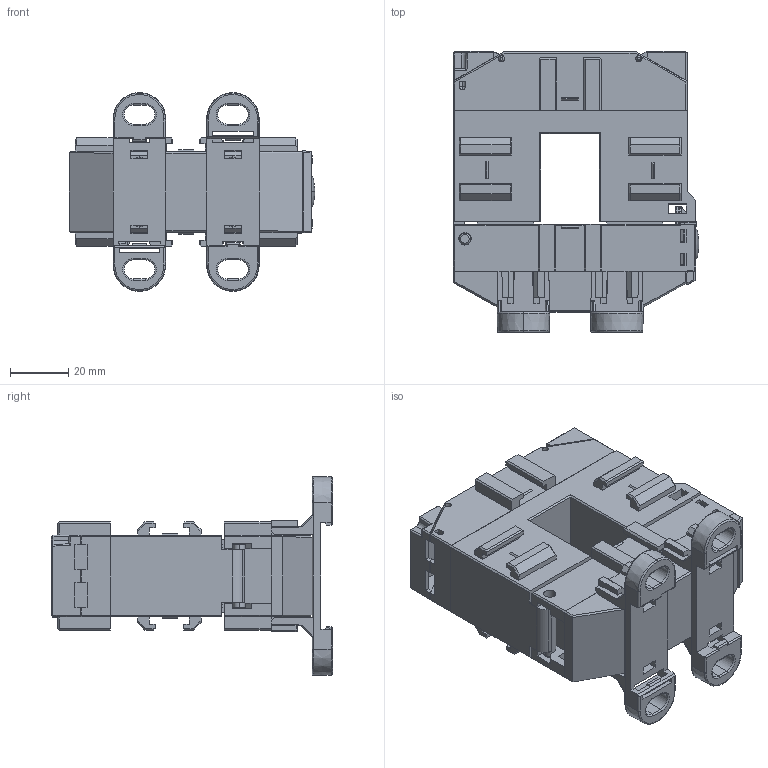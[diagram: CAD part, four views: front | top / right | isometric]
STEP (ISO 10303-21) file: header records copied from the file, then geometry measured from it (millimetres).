
FILE_DESCRIPTION (( 'STEP AP214' ), '1' );
FILE_NAME ('Push 32.STEP', '2023-03-29T15:52:38', ( '' ), ( '' ), 'SwSTEP 2.0', 'SolidWorks 2022', '' );
FILE_SCHEMA (( 'AUTOMOTIVE_DESIGN' ));
Length unit declared in the file: millimetre
Products named in the file (10): tapa cristal_versio_6.1_Predeterminado; Push 32; BOTON VERCION 7_Predeterminado; TAPA CUERPO LARGO2_versio_6.1_Predeterminado; TAPA CUERPO CORTO_versio_6.1_Predeterminado; TAPETA CUERPO PEQUEÑO_versio_7 prueba_Predeterminado; carrete 32_versio_6.1_Predeterminado; CUERPO LARGO_versio_6.1_Predeterminado; GRAPA DE FIJACION_versio_6_Predeterminado; CUERPO corto_versio_6.1_Predeterminado
Assembly tree (12 placements, depth 2):
  Push 32
    CUERPO LARGO_versio_6.1_Predeterminado
    TAPA CUERPO LARGO2_versio_6.1_Predeterminado
    CUERPO corto_versio_6.1_Predeterminado
    TAPA CUERPO CORTO_versio_6.1_Predeterminado
    TAPETA CUERPO PEQUEÑO_versio_7 prueba_Predeterminado
    BOTON VERCION 7_Predeterminado
    GRAPA DE FIJACION_versio_6_Predeterminado  x2
    carrete 32_versio_6.1_Predeterminado  x2
    tapa cristal_versio_6.1_Predeterminado  x2
Bounding box: 84 x 96.2 x 67.98 mm (x, y, z)
Volume: 84956.5 mm3; surface area: 89859 mm2
Topology: 12 solids, 12 shells, 1786 faces, 4798 edges, 3072 vertices
Faces by surface type: plane 1231, cylinder 369, cone 87, bspline 54, torus 37, sphere 8
Entity records: 47716 total; most frequent: CARTESIAN_POINT 10442, ORIENTED_EDGE 7952, DIRECTION 7242, EDGE_CURVE 3976, VECTOR 2990, LINE 2990, VERTEX_POINT 2553, AXIS2_PLACEMENT_3D 2126
